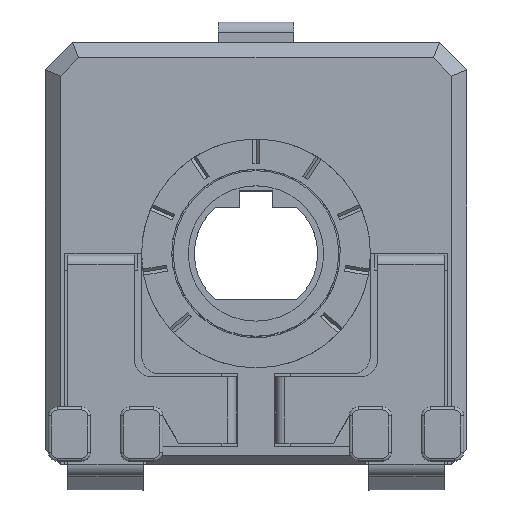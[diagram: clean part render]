
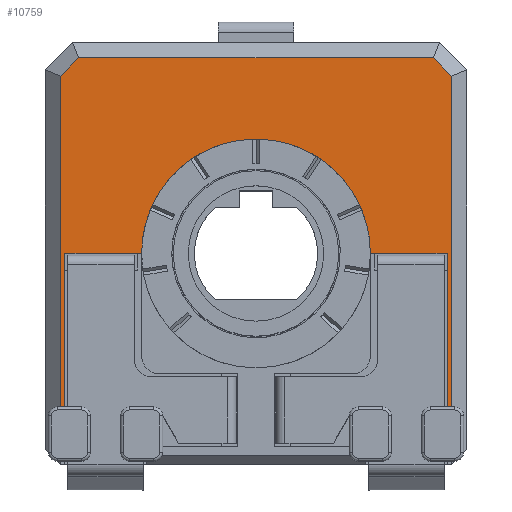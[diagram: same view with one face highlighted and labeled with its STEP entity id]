
A CAD part, top view. The second image highlights one B-rep face of the part: STEP entity #10759.
In plain terms, the highlighted planar face has unit normal (0, 0, 1).
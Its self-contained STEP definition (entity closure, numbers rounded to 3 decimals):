
#355=CIRCLE('',#11546,3.8);
#942=FACE_OUTER_BOUND('',#1511,.T.);
#1511=EDGE_LOOP('',(#9060,#9061,#9062,#9063,#9064,#9065,#9066,#9067,#9068,
#9069,#9070,#9071));
#1862=LINE('',#15266,#3082);
#1930=LINE('',#15519,#3150);
#2167=LINE('',#16154,#3387);
#2170=LINE('',#16159,#3390);
#2442=LINE('',#16811,#3662);
#2475=LINE('',#16938,#3695);
#2697=LINE('',#17484,#3917);
#2698=LINE('',#17487,#3918);
#2699=LINE('',#17488,#3919);
#2700=LINE('',#17491,#3920);
#2701=LINE('',#17492,#3921);
#3082=VECTOR('',#12285,10.);
#3150=VECTOR('',#12567,10.);
#3387=VECTOR('',#13092,10.);
#3390=VECTOR('',#13097,10.);
#3662=VECTOR('',#13519,10.);
#3695=VECTOR('',#13594,10.);
#3917=VECTOR('',#14116,10.);
#3918=VECTOR('',#14119,10.);
#3919=VECTOR('',#14120,10.);
#3920=VECTOR('',#14123,10.);
#3921=VECTOR('',#14124,10.);
#4242=VERTEX_POINT('',#15067);
#4301=VERTEX_POINT('',#15265);
#4378=VERTEX_POINT('',#15516);
#4379=VERTEX_POINT('',#15518);
#4426=VERTEX_POINT('',#15672);
#4427=VERTEX_POINT('',#15674);
#4572=VERTEX_POINT('',#16150);
#4573=VERTEX_POINT('',#16152);
#4782=VERTEX_POINT('',#16807);
#4808=VERTEX_POINT('',#16937);
#4939=VERTEX_POINT('',#17486);
#4940=VERTEX_POINT('',#17490);
#5369=EDGE_CURVE('',#4301,#4242,#1862,.T.);
#5495=EDGE_CURVE('',#4379,#4378,#1930,.T.);
#5785=EDGE_CURVE('',#4573,#4572,#2167,.T.);
#5788=EDGE_CURVE('',#4572,#4378,#2170,.T.);
#6081=EDGE_CURVE('',#4301,#4782,#2442,.T.);
#6126=EDGE_CURVE('',#4782,#4808,#2475,.T.);
#6375=EDGE_CURVE('',#4808,#4573,#2697,.T.);
#6376=EDGE_CURVE('',#4242,#4939,#2698,.T.);
#6377=EDGE_CURVE('',#4939,#4427,#2699,.T.);
#6378=EDGE_CURVE('',#4427,#4426,#355,.T.);
#6379=EDGE_CURVE('',#4426,#4940,#2700,.T.);
#6380=EDGE_CURVE('',#4940,#4379,#2701,.T.);
#9060=ORIENTED_EDGE('',*,*,#5369,.T.);
#9061=ORIENTED_EDGE('',*,*,#6376,.T.);
#9062=ORIENTED_EDGE('',*,*,#6377,.T.);
#9063=ORIENTED_EDGE('',*,*,#6378,.T.);
#9064=ORIENTED_EDGE('',*,*,#6379,.T.);
#9065=ORIENTED_EDGE('',*,*,#6380,.T.);
#9066=ORIENTED_EDGE('',*,*,#5495,.T.);
#9067=ORIENTED_EDGE('',*,*,#5788,.F.);
#9068=ORIENTED_EDGE('',*,*,#5785,.F.);
#9069=ORIENTED_EDGE('',*,*,#6375,.F.);
#9070=ORIENTED_EDGE('',*,*,#6126,.F.);
#9071=ORIENTED_EDGE('',*,*,#6081,.F.);
#10012=PLANE('',#11545);
#10759=ADVANCED_FACE('',(#942),#10012,.T.);
#11545=AXIS2_PLACEMENT_3D('',#17485,#14117,#14118);
#11546=AXIS2_PLACEMENT_3D('',#17489,#14121,#14122);
#12285=DIRECTION('',(1.,0.,0.));
#12567=DIRECTION('',(1.,0.,0.));
#13092=DIRECTION('',(0.707,-0.707,0.));
#13097=DIRECTION('',(0.,-1.,0.));
#13519=DIRECTION('',(0.,1.,0.));
#13594=DIRECTION('',(0.707,0.707,0.));
#14116=DIRECTION('',(1.,0.,0.));
#14117=DIRECTION('center_axis',(0.,0.,1.));
#14118=DIRECTION('ref_axis',(1.,0.,0.));
#14119=DIRECTION('',(0.,1.,0.));
#14120=DIRECTION('',(1.,0.,0.));
#14121=DIRECTION('center_axis',(0.,0.,-1.));
#14122=DIRECTION('ref_axis',(-1.,0.,0.));
#14123=DIRECTION('',(1.,0.,0.));
#14124=DIRECTION('',(0.,-1.,0.));
#15067=CARTESIAN_POINT('',(-13.817,-7.998,4.4));
#15265=CARTESIAN_POINT('',(-13.967,-7.998,4.4));
#15266=CARTESIAN_POINT('',(-10.217,-7.998,4.4));
#15516=CARTESIAN_POINT('',(-0.967,-7.998,4.4));
#15518=CARTESIAN_POINT('',(-1.117,-7.998,4.4));
#15519=CARTESIAN_POINT('',(-4.017,-7.998,4.4));
#15672=CARTESIAN_POINT('',(-3.667,-2.898,4.4));
#15674=CARTESIAN_POINT('',(-11.267,-2.898,4.4));
#16150=CARTESIAN_POINT('',(-0.967,2.994,4.4));
#16152=CARTESIAN_POINT('',(-1.574,3.602,4.4));
#16154=CARTESIAN_POINT('',(-1.271,3.298,4.4));
#16159=CARTESIAN_POINT('',(-0.967,0.602,4.4));
#16807=CARTESIAN_POINT('',(-13.967,2.994,4.4));
#16811=CARTESIAN_POINT('',(-13.967,-6.398,4.4));
#16937=CARTESIAN_POINT('',(-13.36,3.602,4.4));
#16938=CARTESIAN_POINT('',(-13.663,3.298,4.4));
#17484=CARTESIAN_POINT('',(-10.967,3.602,4.4));
#17485=CARTESIAN_POINT('Origin',(-7.467,-2.898,4.4));
#17486=CARTESIAN_POINT('',(-13.817,-2.898,4.4));
#17487=CARTESIAN_POINT('',(-13.817,-3.173,4.4));
#17488=CARTESIAN_POINT('',(-9.442,-2.898,4.4));
#17489=CARTESIAN_POINT('Origin',(-7.467,-2.898,4.4));
#17490=CARTESIAN_POINT('',(-1.117,-2.898,4.4));
#17491=CARTESIAN_POINT('',(-5.492,-2.898,4.4));
#17492=CARTESIAN_POINT('',(-1.117,-2.898,4.4));
